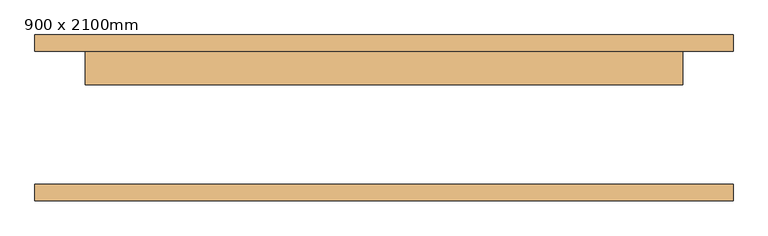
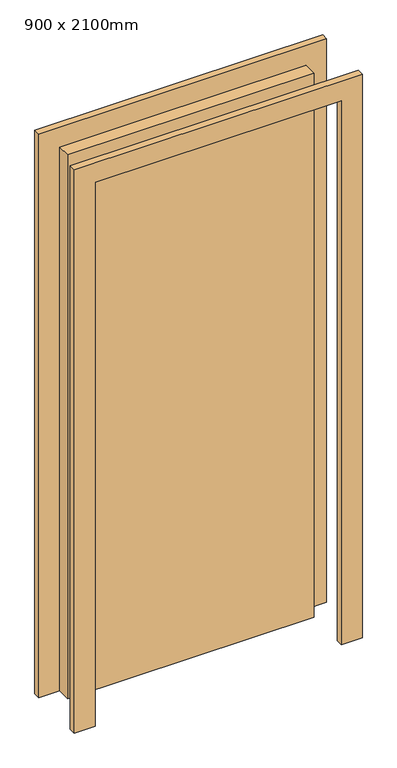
"""IFC4 building model written with IfcOpenShell, lengths in millimetres: door geometry, M_Dveře, jednokřídlé, panel : 900 x 2100mm."""

from ifc_helpers import new_model, si_unit, frame, origin, origin_with_axes, place, context, project, spatial, polyline, outline, extrude, source, transform, mapped, element, save


def door_900_x_2100mm_1d00f630(model_context):
    return source(origin(), model_context, "Body", "SweptSolid", [
        extrude(outline(polyline([(450.0, 50.0), (-450.0, 50.0), (-450.0, 100.0), (450.0, 100.0), (450.0, 50.0)])), origin_with_axes(), (0.0, 0.0, 1.0), 2100.0),
        extrude(outline(polyline([(2176.2, 526.2), (2176.2, -526.2), (0.0, -526.2), (0.0, -450.0), (2100.0, -450.0), (2100.0, 450.0), (0.0, 450.0), (0.0, 526.2), (2176.2, 526.2)])), frame((0.0, -125.0, 0.0), z_axis=(0.0, 1.0, 0.0), x_axis=(0.0, 0.0, 1.0)), (0.0, 0.0, 1.0), 25.0),
        extrude(outline(polyline([(2176.2, -526.2), (0.0, -526.2), (0.0, -450.0), (2100.0, -450.0), (2100.0, 450.0), (0.0, 450.0), (0.0, 526.2), (2176.2, 526.2), (2176.2, -526.2)])), frame((0.0, 100.0, 0.0), z_axis=(0.0, 1.0, 0.0), x_axis=(0.0, 0.0, 1.0)), (0.0, 0.0, 1.0), 25.0),
    ])


if __name__ == "__main__":
    model = new_model("IFC4")
    model_context = context("Model", 3, world=origin())
    ifc_project = project(units=[si_unit("LENGTHUNIT", "METRE", prefix="MILLI")], contexts=[model_context])
    site = spatial("IfcSite", under=ifc_project)
    building = spatial("IfcBuilding", under=site)
    placement = place(None, origin())
    door_900_x_2100mm_shape = door_900_x_2100mm_1d00f630(model_context)
    element("IfcDoor", 1, ObjectType="M_Dveře, jednokřídlé, panel : 900 x 2100mm", at=placement, inside=building, context=model_context, shape_type="MappedRepresentation", body=[
        mapped(door_900_x_2100mm_shape, transform((0.0, 0.0, 0.0), x_axis=(1.0, 0.0, 0.0), y_axis=(0.0, 1.0, 0.0), z_axis=(0.0, 0.0, 1.0))),
    ])
    save(model, "model.ifc")
